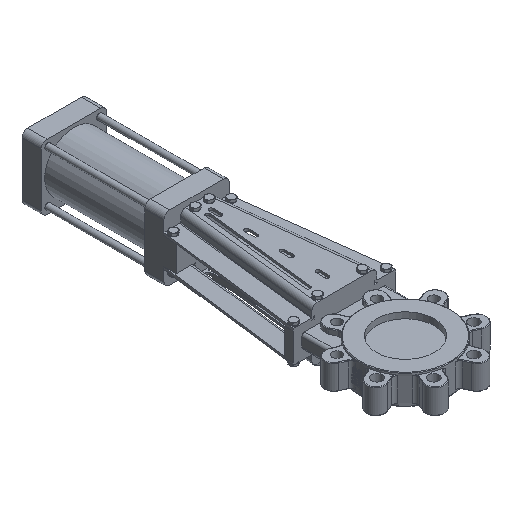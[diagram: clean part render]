
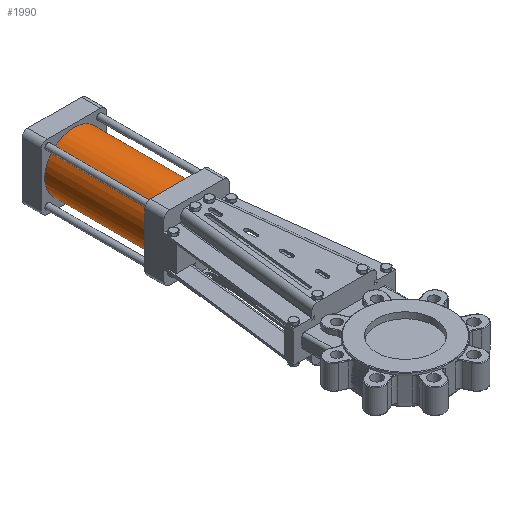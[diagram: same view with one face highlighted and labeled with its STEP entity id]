
A CAD part, isometric view. The second image highlights one B-rep face of the part: STEP entity #1990.
In plain terms, the highlighted cylindrical face has radius 50 mm (diameter 100 mm), a full revolution.
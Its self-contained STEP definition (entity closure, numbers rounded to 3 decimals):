
#1990=ADVANCED_FACE('',(#10106,#10108),#10110,.T.);
#10106=FACE_OUTER_BOUND('',#10107,.T.);
#10107=EDGE_LOOP('',(#16508));
#10108=FACE_OUTER_BOUND('',#10109,.T.);
#10109=EDGE_LOOP('',(#16509));
#10110=CYLINDRICAL_SURFACE('',#10111,50.);
#10111=AXIS2_PLACEMENT_3D('',#10112,#10113,#10114);
#10112=CARTESIAN_POINT('',(0.,392.,0.));
#10113=DIRECTION('',(0.,1.,0.));
#10114=DIRECTION('',(0.,0.,1.));
#16508=ORIENTED_EDGE('',*,*,#21111,.F.);
#16509=ORIENTED_EDGE('',*,*,#20576,.T.);
#20576=EDGE_CURVE('',#23163,#23163,#23164,.T.);
#21111=EDGE_CURVE('',#24111,#24111,#24112,.T.);
#23163=VERTEX_POINT('',#28091);
#23164=CIRCLE('',#28092,50.);
#24111=VERTEX_POINT('',#34004);
#24112=CIRCLE('',#34005,50.);
#28091=CARTESIAN_POINT('',(0.,392.,50.));
#28092=AXIS2_PLACEMENT_3D('',#28093,#28094,#28095);
#28093=CARTESIAN_POINT('',(0.,392.,0.));
#28094=DIRECTION('',(0.,1.,0.));
#28095=DIRECTION('',(0.,0.,1.));
#34004=CARTESIAN_POINT('',(0.,570.,50.));
#34005=AXIS2_PLACEMENT_3D('',#34006,#34007,#34008);
#34006=CARTESIAN_POINT('',(0.,570.,0.));
#34007=DIRECTION('',(0.,1.,0.));
#34008=DIRECTION('',(0.,0.,1.));
